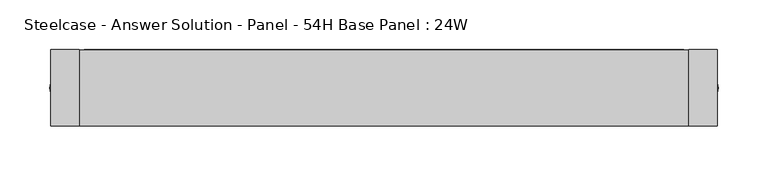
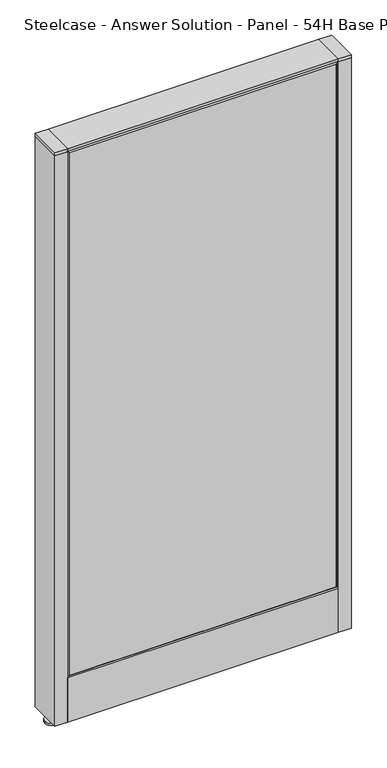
"""IFC4 building model written with IfcOpenShell, lengths in millimetres: furniture geometry, Steelcase - Answer Solution - Panel - 54H Base Panel : 24W."""

from ifc_helpers import new_model, si_unit, point, frame, frame_2d, origin, place, context, project, spatial, polyline, circle_curve, trimmed, segment, composite_curve, outline, extrude, faceted_brep, source, transform, mapped, element, save


def steelcase_answer_solution_panel_54h_base_panel_24w_a723460a(model_context):
    return source(origin(), model_context, "Body", "SolidModel", [
        extrude(outline(composite_curve([segment(trimmed(circle_curve(frame_2d((319.024, 0.0320214)), 5.08), [point((324.104, 0.0320214))], [point((313.944, 0.0320214))], False, "CARTESIAN"), True, "CONTINUOUS"), segment(trimmed(circle_curve(frame_2d((319.024, 0.0320214)), 5.08), [point((313.944, 0.0320214))], [point((324.104, 0.0320214))], False, "CARTESIAN"), True, "CONTINUOUS")], self_intersect=False)), frame((0.0, 0.0, 5.0799671), z_axis=(0.0, 0.0, 1.0), x_axis=(1.0, 0.0, 0.0)), (0.0, 0.0, 1.0), 10.414),
        extrude(outline(composite_curve([segment(trimmed(circle_curve(frame_2d((319.024, 0.0320214)), 15.24), [point((334.264, 0.0320214))], [point((303.784, 0.0320214))], False, "CARTESIAN"), True, "CONTINUOUS"), segment(trimmed(circle_curve(frame_2d((319.024, 0.0320214)), 15.24), [point((303.784, 0.0320214))], [point((334.264, 0.0320214))], False, "CARTESIAN"), True, "CONTINUOUS")], self_intersect=False)), frame((0.0, 0.0, -3.29e-05), z_axis=(0.0, 0.0, 1.0), x_axis=(1.0, 0.0, 0.0)), (0.0, 0.0, 1.0), 5.08),
        extrude(outline(polyline([(333.375, 38.1320408), (333.375, -38.0679592), (304.8, -38.0679592), (304.8, 38.1320408), (333.375, 38.1320408)])), frame((0.0, 0.0, 1370.6348), z_axis=(0.0, 0.0, 1.0), x_axis=(1.0, 0.0, 0.0)), (0.0, 0.0, 1.0), 7.3151671),
        extrude(outline(polyline([(333.375, 38.1320408), (333.375, -38.0679592), (304.8, -38.0679592), (304.8, 38.1320408), (333.375, 38.1320408)])), frame((0.0, 0.0, 15.4939671), z_axis=(0.0, 0.0, 1.0), x_axis=(1.0, 0.0, 0.0)), (0.0, 0.0, 1.0), 1355.1408329),
        extrude(outline(composite_curve([segment(trimmed(circle_curve(frame_2d((-319.024, 0.0320214)), 5.08), [point((-324.104, 0.0320214))], [point((-313.944, 0.0320214))], False, "CARTESIAN"), True, "CONTINUOUS"), segment(trimmed(circle_curve(frame_2d((-319.024, 0.0320214)), 5.08), [point((-313.944, 0.0320214))], [point((-324.104, 0.0320214))], False, "CARTESIAN"), True, "CONTINUOUS")], self_intersect=False)), frame((0.0, 0.0, 5.0799671), z_axis=(0.0, 0.0, 1.0), x_axis=(1.0, 0.0, 0.0)), (0.0, 0.0, 1.0), 10.414),
        extrude(outline(composite_curve([segment(trimmed(circle_curve(frame_2d((-319.024, 0.0320214)), 15.24), [point((-334.264, 0.0320214))], [point((-303.784, 0.0320214))], False, "CARTESIAN"), True, "CONTINUOUS"), segment(trimmed(circle_curve(frame_2d((-319.024, 0.0320214)), 15.24), [point((-303.784, 0.0320214))], [point((-334.264, 0.0320214))], False, "CARTESIAN"), True, "CONTINUOUS")], self_intersect=False)), frame((0.0, 0.0, -3.29e-05), z_axis=(0.0, 0.0, 1.0), x_axis=(1.0, 0.0, 0.0)), (0.0, 0.0, 1.0), 5.08),
        extrude(outline(polyline([(-333.375, 38.1320408), (-304.8, 38.1320408), (-304.8, -38.0679592), (-333.375, -38.0679592), (-333.375, 38.1320408)])), frame((0.0, 0.0, 1370.6348), z_axis=(0.0, 0.0, 1.0), x_axis=(1.0, 0.0, 0.0)), (0.0, 0.0, 1.0), 7.3151671),
        extrude(outline(polyline([(-333.375, 38.1320408), (-304.8, 38.1320408), (-304.8, -38.0679592), (-333.375, -38.0679592), (-333.375, 38.1320408)])), frame((0.0, 0.0, 15.4939671), z_axis=(0.0, 0.0, 1.0), x_axis=(1.0, 0.0, 0.0)), (0.0, 0.0, 1.0), 1355.1408329),
        faceted_brep([(-299.974, 38.1635011, 1366.774), (299.974, 38.1635011, 1366.774), (299.974, 38.1635011, 125.476), (-299.974, 38.1635011, 125.476), (-304.8, 33.3375011, 1371.6), (-304.8, 33.3375011, 120.65), (304.8, 33.3375011, 120.65), (304.8, 33.3375011, 1371.6)], [[[0, 1, 2, 3]], [[4, 5, 6, 7]], [[4, 7, 1, 0]], [[7, 6, 2, 1]], [[6, 5, 3, 2]], [[5, 4, 0, 3]]]),
        faceted_brep([(299.974, -38.1635011, 1366.774), (-299.974, -38.1635011, 1366.774), (-299.974, -38.1635011, 125.476), (299.974, -38.1635011, 125.476), (304.8, -33.3375011, 1371.6), (304.8, -33.3375011, 120.65), (-304.8, -33.3375011, 120.65), (-304.8, -33.3375011, 1371.6)], [[[0, 1, 2, 3]], [[4, 5, 6, 7]], [[4, 7, 1, 0]], [[7, 6, 2, 1]], [[6, 5, 3, 2]], [[5, 4, 0, 3]]]),
        extrude(outline(polyline([(304.8, 38.1000194), (304.8, -38.1000194), (-304.8, -38.1000194), (-304.8, 38.1000194), (304.8, 38.1000194)])), frame((0.0, 0.0, 1371.6), z_axis=(0.0, 0.0, 1.0), x_axis=(1.0, 0.0, 0.0)), (0.0, 0.0, 1.0), 6.35),
        extrude(outline(polyline([(25.4000011, 119.8575157), (25.4000011, 120.65), (38.1000194, 120.65), (38.1000194, 15.494), (37.3075215, 15.494), (37.3075215, 119.8575157), (25.4000011, 119.8575157)])), frame((-304.8, 0.0, 0.0), z_axis=(1.0, 0.0, 0.0), x_axis=(0.0, 1.0, 0.0)), (0.0, 0.0, 1.0), 609.6),
        extrude(outline(polyline([(-25.4000011, 119.8575157), (-37.3075215, 119.8575157), (-37.3075215, 15.494), (-38.1000194, 15.494), (-38.1000194, 120.65), (-25.4000011, 120.65), (-25.4000011, 119.8575157)])), frame((-304.8, 0.0, 0.0), z_axis=(1.0, 0.0, 0.0), x_axis=(0.0, 1.0, 0.0)), (0.0, 0.0, 1.0), 609.6),
    ])


if __name__ == "__main__":
    model = new_model("IFC4")
    model_context = context("Model", 3, world=origin())
    ifc_project = project(units=[si_unit("LENGTHUNIT", "METRE", prefix="MILLI")], contexts=[model_context])
    site = spatial("IfcSite", under=ifc_project)
    building = spatial("IfcBuilding", under=site)
    placement = place(None, origin())
    steelcase_answer_solution_panel_54h_base_panel_24w_shape = steelcase_answer_solution_panel_54h_base_panel_24w_a723460a(model_context)
    element("IfcFurniture", 1, ObjectType="Steelcase - Answer Solution - Panel - 54H Base Panel : 24W", at=placement, inside=building, context=model_context, shape_type="MappedRepresentation", body=[
        mapped(steelcase_answer_solution_panel_54h_base_panel_24w_shape, transform((0.0, 0.0, 0.0), x_axis=(1.0, 0.0, 0.0), y_axis=(0.0, 1.0, 0.0), z_axis=(0.0, 0.0, 1.0))),
    ])
    save(model, "model.ifc")
